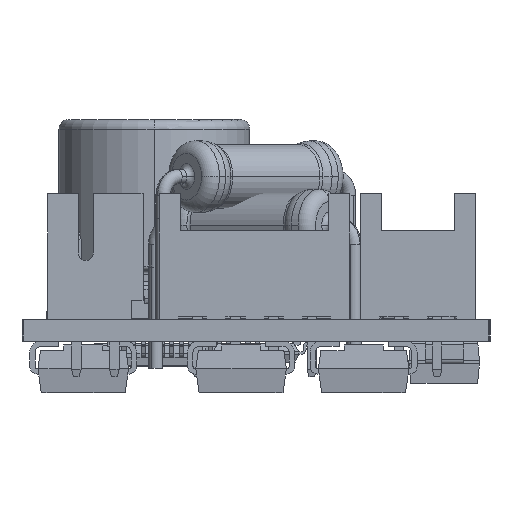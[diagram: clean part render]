
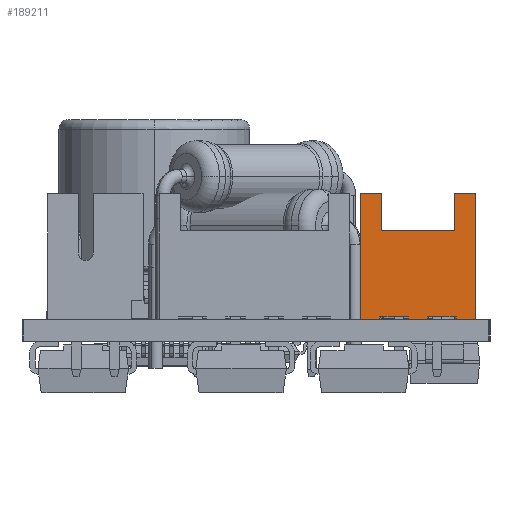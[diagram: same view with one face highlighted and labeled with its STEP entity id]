
A CAD part, left-side view. The second image highlights one B-rep face of the part: STEP entity #189211.
In plain terms, the highlighted planar face has unit normal (-1, 0, 0) as drawn and (0, -1, 0) by its records, which use the part's own axes.
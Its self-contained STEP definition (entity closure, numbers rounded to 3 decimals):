
#2083 = DIRECTION ( 'NONE',  ( 1., 0., 0. ) ) ;
#2245 = EDGE_CURVE ( 'NONE', #115788, #114221, #40706, .T. ) ;
#2570 = LINE ( 'NONE', #188893, #82831 ) ;
#7679 = VECTOR ( 'NONE', #153026, 1000. ) ;
#7929 = ORIENTED_EDGE ( 'NONE', *, *, #161076, .T. ) ;
#8449 = DIRECTION ( 'NONE',  ( 0., 0., -1. ) ) ;
#8528 = VECTOR ( 'NONE', #167535, 1000. ) ;
#9164 = VERTEX_POINT ( 'NONE', #134122 ) ;
#9580 = EDGE_CURVE ( 'NONE', #56906, #195869, #193573, .T. ) ;
#10164 = ORIENTED_EDGE ( 'NONE', *, *, #92323, .F. ) ;
#10469 = VECTOR ( 'NONE', #33316, 1000. ) ;
#13506 = CARTESIAN_POINT ( 'NONE',  ( -5.222, -2.345, 6.6 ) ) ;
#17798 = VECTOR ( 'NONE', #52538, 1000. ) ;
#18481 = VECTOR ( 'NONE', #138464, 1000. ) ;
#19044 = VERTEX_POINT ( 'NONE', #143850 ) ;
#26540 = CARTESIAN_POINT ( 'NONE',  ( -13.87, -2.345, 6.6 ) ) ;
#28197 = DIRECTION ( 'NONE',  ( 1., 0., 0. ) ) ;
#28364 = VECTOR ( 'NONE', #171578, 1000. ) ;
#30979 = EDGE_CURVE ( 'NONE', #9164, #94171, #2570, .T. ) ;
#33316 = DIRECTION ( 'NONE',  ( 1., 0., 0. ) ) ;
#33424 = CARTESIAN_POINT ( 'NONE',  ( -5.322, -2.345, 0. ) ) ;
#33948 = CARTESIAN_POINT ( 'NONE',  ( -0.574, -2.345, 6.6 ) ) ;
#34064 = ORIENTED_EDGE ( 'NONE', *, *, #73101, .T. ) ;
#35540 = ORIENTED_EDGE ( 'NONE', *, *, #151881, .F. ) ;
#37355 = CARTESIAN_POINT ( 'NONE',  ( -10.222, -2.345, 0. ) ) ;
#39336 = LINE ( 'NONE', #118549, #173895 ) ;
#40706 = LINE ( 'NONE', #144394, #111500 ) ;
#41714 = DIRECTION ( 'NONE',  ( -1., 0., 0. ) ) ;
#44482 = LINE ( 'NONE', #171350, #119992 ) ;
#44735 = VERTEX_POINT ( 'NONE', #51656 ) ;
#44892 = DIRECTION ( 'NONE',  ( 0., -1., 0. ) ) ;
#45417 = FACE_OUTER_BOUND ( 'NONE', #90877, .T. ) ;
#46141 = DIRECTION ( 'NONE',  ( 0., 0., 1. ) ) ;
#47072 = VECTOR ( 'NONE', #170260, 1000. ) ;
#47494 = CARTESIAN_POINT ( 'NONE',  ( -6.722, -2.345, 6.6 ) ) ;
#49744 = ORIENTED_EDGE ( 'NONE', *, *, #100385, .F. ) ;
#51656 = CARTESIAN_POINT ( 'NONE',  ( -10.222, -2.345, 6.6 ) ) ;
#52538 = DIRECTION ( 'NONE',  ( 0., 0., -1. ) ) ;
#53808 = VECTOR ( 'NONE', #46141, 1000. ) ;
#55324 = LINE ( 'NONE', #33948, #10469 ) ;
#56906 = VERTEX_POINT ( 'NONE', #37355 ) ;
#58521 = LINE ( 'NONE', #77683, #18481 ) ;
#61955 = CARTESIAN_POINT ( 'NONE',  ( -9.122, -2.345, 0.527 ) ) ;
#63524 = VERTEX_POINT ( 'NONE', #182634 ) ;
#63906 = CARTESIAN_POINT ( 'NONE',  ( -7.722, -2.345, 6.6 ) ) ;
#68879 = EDGE_CURVE ( 'NONE', #177375, #44735, #141415, .T. ) ;
#69780 = VERTEX_POINT ( 'NONE', #169965 ) ;
#71861 = PLANE ( 'NONE',  #175432 ) ;
#73101 = EDGE_CURVE ( 'NONE', #195869, #9164, #174199, .T. ) ;
#77683 = CARTESIAN_POINT ( 'NONE',  ( -5.322, -2.345, 0.527 ) ) ;
#79883 = CARTESIAN_POINT ( 'NONE',  ( -13.87, -2.345, 6.6 ) ) ;
#82831 = VECTOR ( 'NONE', #113662, 1000. ) ;
#83001 = EDGE_CURVE ( 'NONE', #69780, #63524, #89686, .T. ) ;
#83922 = VERTEX_POINT ( 'NONE', #138744 ) ;
#85842 = ORIENTED_EDGE ( 'NONE', *, *, #141486, .T. ) ;
#89686 = LINE ( 'NONE', #63906, #169977 ) ;
#89868 = EDGE_CURVE ( 'NONE', #44735, #56906, #173920, .T. ) ;
#90877 = EDGE_LOOP ( 'NONE', ( #35540, #121627, #147632, #164871, #112188, #34064, #155289, #7929, #154269, #158519, #10164, #188742, #181457, #49744, #85842, #107147 ) ) ;
#92323 = EDGE_CURVE ( 'NONE', #115788, #119762, #55324, .T. ) ;
#93668 = VECTOR ( 'NONE', #104888, 1000. ) ;
#94171 = VERTEX_POINT ( 'NONE', #174250 ) ;
#100385 = EDGE_CURVE ( 'NONE', #19044, #83922, #123406, .T. ) ;
#104888 = DIRECTION ( 'NONE',  ( 0., 0., -1. ) ) ;
#107147 = ORIENTED_EDGE ( 'NONE', *, *, #83001, .T. ) ;
#111500 = VECTOR ( 'NONE', #8449, 1000. ) ;
#111937 = CARTESIAN_POINT ( 'NONE',  ( -9.222, -2.345, 6.65 ) ) ;
#112188 = ORIENTED_EDGE ( 'NONE', *, *, #9580, .T. ) ;
#113662 = DIRECTION ( 'NONE',  ( 1., 0., 0. ) ) ;
#114221 = VERTEX_POINT ( 'NONE', #127830 ) ;
#115788 = VERTEX_POINT ( 'NONE', #13506 ) ;
#118549 = CARTESIAN_POINT ( 'NONE',  ( -28.27, -2.345, 6.45 ) ) ;
#119565 = CARTESIAN_POINT ( 'NONE',  ( -4.222, -2.345, 6.6 ) ) ;
#119762 = VERTEX_POINT ( 'NONE', #119565 ) ;
#119992 = VECTOR ( 'NONE', #186585, 1000. ) ;
#121627 = ORIENTED_EDGE ( 'NONE', *, *, #122602, .F. ) ;
#122602 = EDGE_CURVE ( 'NONE', #177375, #189210, #178287, .T. ) ;
#122860 = CARTESIAN_POINT ( 'NONE',  ( -28.27, -2.345, 6.45 ) ) ;
#123406 = LINE ( 'NONE', #47494, #7679 ) ;
#127830 = CARTESIAN_POINT ( 'NONE',  ( -5.222, -2.345, 6.45 ) ) ;
#128292 = VERTEX_POINT ( 'NONE', #139464 ) ;
#128949 = LINE ( 'NONE', #152407, #8528 ) ;
#131442 = EDGE_CURVE ( 'NONE', #134910, #128292, #44482, .T. ) ;
#134122 = CARTESIAN_POINT ( 'NONE',  ( -9.122, -2.345, 1.95 ) ) ;
#134910 = VERTEX_POINT ( 'NONE', #33424 ) ;
#135252 = CARTESIAN_POINT ( 'NONE',  ( -9.615, -2.345, 0.527 ) ) ;
#138464 = DIRECTION ( 'NONE',  ( 0., 0., -1. ) ) ;
#138744 = CARTESIAN_POINT ( 'NONE',  ( -6.722, -2.345, 6.45 ) ) ;
#139464 = CARTESIAN_POINT ( 'NONE',  ( -4.222, -2.345, 0. ) ) ;
#141415 = LINE ( 'NONE', #26540, #176809 ) ;
#141486 = EDGE_CURVE ( 'NONE', #19044, #69780, #162669, .T. ) ;
#141794 = CARTESIAN_POINT ( 'NONE',  ( -9.122, -2.345, 0. ) ) ;
#143850 = CARTESIAN_POINT ( 'NONE',  ( -6.722, -2.345, 6.6 ) ) ;
#144394 = CARTESIAN_POINT ( 'NONE',  ( -5.222, -2.345, 6.65 ) ) ;
#146434 = CARTESIAN_POINT ( 'NONE',  ( -9.222, -2.345, 6.45 ) ) ;
#146449 = EDGE_CURVE ( 'NONE', #128292, #119762, #128949, .T. ) ;
#147632 = ORIENTED_EDGE ( 'NONE', *, *, #68879, .T. ) ;
#150397 = DIRECTION ( 'NONE',  ( 0., 0., -1. ) ) ;
#151881 = EDGE_CURVE ( 'NONE', #189210, #63524, #192114, .T. ) ;
#152407 = CARTESIAN_POINT ( 'NONE',  ( -4.222, -2.345, 0.527 ) ) ;
#153026 = DIRECTION ( 'NONE',  ( 0., 0., -1. ) ) ;
#154269 = ORIENTED_EDGE ( 'NONE', *, *, #131442, .T. ) ;
#155289 = ORIENTED_EDGE ( 'NONE', *, *, #30979, .T. ) ;
#155982 = CARTESIAN_POINT ( 'NONE',  ( -9.222, -2.345, 6.6 ) ) ;
#156369 = CARTESIAN_POINT ( 'NONE',  ( -9.615, -2.345, 0. ) ) ;
#158519 = ORIENTED_EDGE ( 'NONE', *, *, #146449, .T. ) ;
#161076 = EDGE_CURVE ( 'NONE', #94171, #134910, #58521, .T. ) ;
#162669 = LINE ( 'NONE', #79883, #47072 ) ;
#164871 = ORIENTED_EDGE ( 'NONE', *, *, #89868, .T. ) ;
#167535 = DIRECTION ( 'NONE',  ( 0., 0., 1. ) ) ;
#169965 = CARTESIAN_POINT ( 'NONE',  ( -7.722, -2.345, 6.6 ) ) ;
#169977 = VECTOR ( 'NONE', #184727, 1000. ) ;
#170260 = DIRECTION ( 'NONE',  ( -1., 0., 0. ) ) ;
#171350 = CARTESIAN_POINT ( 'NONE',  ( -9.615, -2.345, 0. ) ) ;
#171578 = DIRECTION ( 'NONE',  ( 1., 0., 0. ) ) ;
#173895 = VECTOR ( 'NONE', #28197, 1000. ) ;
#173920 = LINE ( 'NONE', #195255, #93668 ) ;
#174199 = LINE ( 'NONE', #61955, #53808 ) ;
#174250 = CARTESIAN_POINT ( 'NONE',  ( -5.322, -2.345, 1.95 ) ) ;
#175432 = AXIS2_PLACEMENT_3D ( 'NONE', #135252, #44892, #150397 ) ;
#176809 = VECTOR ( 'NONE', #41714, 1000. ) ;
#177095 = EDGE_CURVE ( 'NONE', #83922, #114221, #39336, .T. ) ;
#177375 = VERTEX_POINT ( 'NONE', #155982 ) ;
#178287 = LINE ( 'NONE', #111937, #17798 ) ;
#181457 = ORIENTED_EDGE ( 'NONE', *, *, #177095, .F. ) ;
#182634 = CARTESIAN_POINT ( 'NONE',  ( -7.722, -2.345, 6.45 ) ) ;
#184727 = DIRECTION ( 'NONE',  ( 0., 0., -1. ) ) ;
#186585 = DIRECTION ( 'NONE',  ( 1., 0., 0. ) ) ;
#187433 = VECTOR ( 'NONE', #2083, 1000. ) ;
#188742 = ORIENTED_EDGE ( 'NONE', *, *, #2245, .T. ) ;
#188893 = CARTESIAN_POINT ( 'NONE',  ( -9.615, -2.345, 1.95 ) ) ;
#189210 = VERTEX_POINT ( 'NONE', #146434 ) ;
#189211 = ADVANCED_FACE ( 'NONE', ( #45417 ), #71861, .T. ) ;
#192114 = LINE ( 'NONE', #122860, #187433 ) ;
#193573 = LINE ( 'NONE', #156369, #28364 ) ;
#195255 = CARTESIAN_POINT ( 'NONE',  ( -10.222, -2.345, 0.527 ) ) ;
#195869 = VERTEX_POINT ( 'NONE', #141794 ) ;
